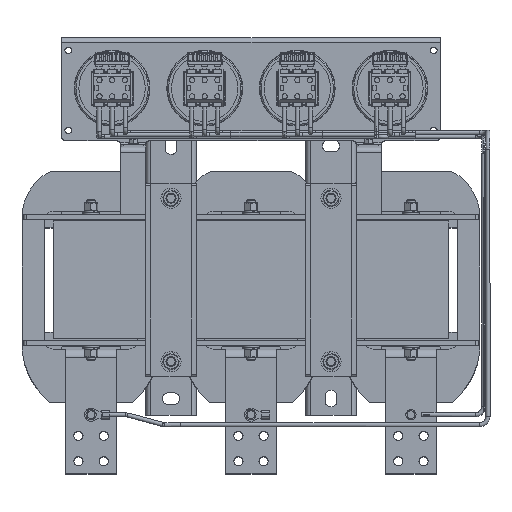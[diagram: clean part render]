
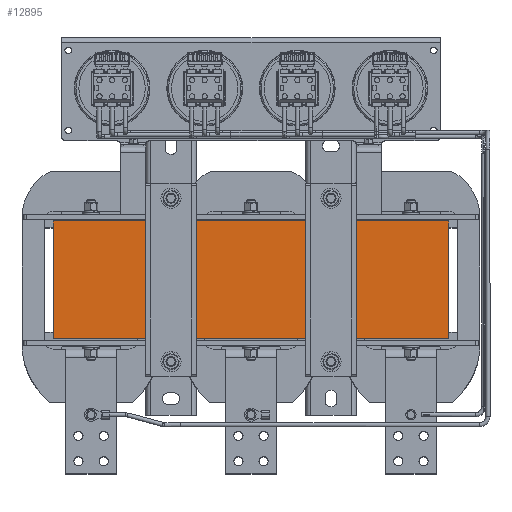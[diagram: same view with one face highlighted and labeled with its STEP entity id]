
A CAD part, top view. The second image highlights one B-rep face of the part: STEP entity #12895.
In plain terms, the highlighted planar face has unit normal (0, 0, 1).
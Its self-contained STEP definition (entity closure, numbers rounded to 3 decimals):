
#127 = DIRECTION ( 'NONE',  ( 0., 0., 1. ) ) ;
#693 = ORIENTED_EDGE ( 'NONE', *, *, #89453, .T. ) ;
#1828 = CARTESIAN_POINT ( 'NONE',  ( -235., -2.315, 530. ) ) ;
#2182 = DIRECTION ( 'NONE',  ( 1., 0., 0. ) ) ;
#4847 = EDGE_CURVE ( 'NONE', #14086, #16566, #38483, .T. ) ;
#6814 = DIRECTION ( 'NONE',  ( 1., 0., 0. ) ) ;
#10630 = CARTESIAN_POINT ( 'NONE',  ( 235., -2.315, 530. ) ) ;
#11719 = VERTEX_POINT ( 'NONE', #10630 ) ;
#12895 = ADVANCED_FACE ( 'NONE', ( #86171 ), #43122, .T. ) ;
#14086 = VERTEX_POINT ( 'NONE', #27039 ) ;
#15536 = LINE ( 'NONE', #29397, #81082 ) ;
#15619 = EDGE_LOOP ( 'NONE', ( #62317, #693, #39720, #35975 ) ) ;
#16566 = VERTEX_POINT ( 'NONE', #53988 ) ;
#21607 = LINE ( 'NONE', #36429, #71935 ) ;
#27039 = CARTESIAN_POINT ( 'NONE',  ( -235., 137.685, 530. ) ) ;
#29397 = CARTESIAN_POINT ( 'NONE',  ( 235., -7.315, 530. ) ) ;
#31694 = CARTESIAN_POINT ( 'NONE',  ( 235., -2.315, 530. ) ) ;
#35975 = ORIENTED_EDGE ( 'NONE', *, *, #4847, .F. ) ;
#36429 = CARTESIAN_POINT ( 'NONE',  ( -235., -7.315, 530. ) ) ;
#38483 = LINE ( 'NONE', #89648, #47564 ) ;
#39720 = ORIENTED_EDGE ( 'NONE', *, *, #81443, .F. ) ;
#43122 = PLANE ( 'NONE',  #65529 ) ;
#45573 = LINE ( 'NONE', #31694, #90680 ) ;
#45858 = EDGE_CURVE ( 'NONE', #14086, #71499, #21607, .T. ) ;
#47564 = VECTOR ( 'NONE', #2182, 1000. ) ;
#53988 = CARTESIAN_POINT ( 'NONE',  ( 235., 137.685, 530. ) ) ;
#57497 = CARTESIAN_POINT ( 'NONE',  ( 235., -7.315, 530. ) ) ;
#59532 = DIRECTION ( 'NONE',  ( 0., -1., 0. ) ) ;
#60876 = DIRECTION ( 'NONE',  ( 1., 0., 0. ) ) ;
#62317 = ORIENTED_EDGE ( 'NONE', *, *, #45858, .T. ) ;
#65529 = AXIS2_PLACEMENT_3D ( 'NONE', #57497, #127, #6814 ) ;
#65605 = DIRECTION ( 'NONE',  ( 0., -1., 0. ) ) ;
#71499 = VERTEX_POINT ( 'NONE', #1828 ) ;
#71935 = VECTOR ( 'NONE', #65605, 1000. ) ;
#81082 = VECTOR ( 'NONE', #59532, 1000. ) ;
#81443 = EDGE_CURVE ( 'NONE', #16566, #11719, #15536, .T. ) ;
#86171 = FACE_OUTER_BOUND ( 'NONE', #15619, .T. ) ;
#89453 = EDGE_CURVE ( 'NONE', #71499, #11719, #45573, .T. ) ;
#89648 = CARTESIAN_POINT ( 'NONE',  ( 0., 137.685, 530. ) ) ;
#90680 = VECTOR ( 'NONE', #60876, 1000. ) ;
